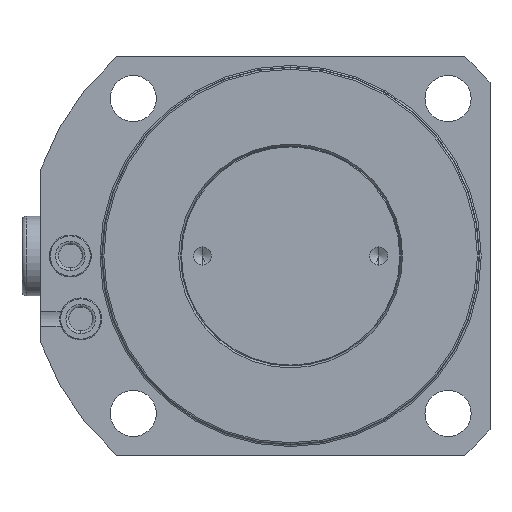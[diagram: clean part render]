
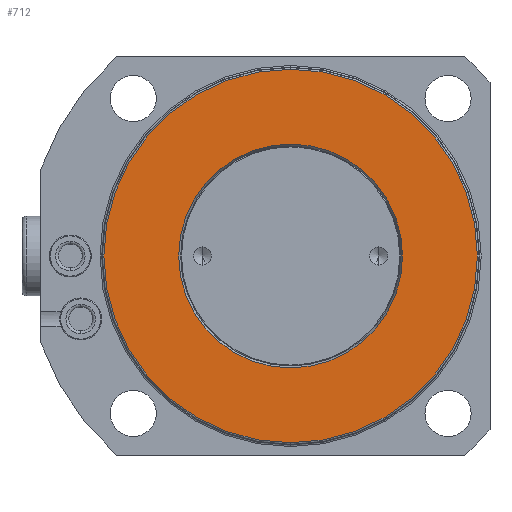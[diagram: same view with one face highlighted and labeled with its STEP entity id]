
A CAD part, front view. The second image highlights one B-rep face of the part: STEP entity #712.
In plain terms, the highlighted planar face has unit normal (0, -1, 0).
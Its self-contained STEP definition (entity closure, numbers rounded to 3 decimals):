
#322=FACE_BOUND('',#1226,.T.);
#323=FACE_BOUND('',#1227,.T.);
#379=PLANE('',#4048);
#712=ADVANCED_FACE('',(#322,#323),#379,.F.);
#1226=EDGE_LOOP('',(#2361,#2362));
#1227=EDGE_LOOP('',(#2363,#2364));
#2361=ORIENTED_EDGE('',*,*,#3245,.F.);
#2362=ORIENTED_EDGE('',*,*,#3309,.F.);
#2363=ORIENTED_EDGE('',*,*,#3250,.T.);
#2364=ORIENTED_EDGE('',*,*,#3308,.T.);
#2827=VERTEX_POINT('',#6473);
#2828=VERTEX_POINT('',#6474);
#2831=VERTEX_POINT('',#6482);
#2832=VERTEX_POINT('',#6484);
#3245=EDGE_CURVE('',#2827,#2828,#3560,.T.);
#3250=EDGE_CURVE('',#2832,#2831,#3564,.T.);
#3308=EDGE_CURVE('',#2831,#2832,#3592,.T.);
#3309=EDGE_CURVE('',#2828,#2827,#3593,.T.);
#3560=CIRCLE('',#3998,44.5);
#3564=CIRCLE('',#4003,26.662);
#3592=CIRCLE('',#4045,26.662);
#3593=CIRCLE('',#4047,44.5);
#3998=AXIS2_PLACEMENT_3D('',#6472,#5017,#5018);
#4003=AXIS2_PLACEMENT_3D('',#6483,#5028,#5029);
#4045=AXIS2_PLACEMENT_3D('',#6638,#5132,#5133);
#4047=AXIS2_PLACEMENT_3D('',#6640,#5136,#5137);
#4048=AXIS2_PLACEMENT_3D('',#6641,#5138,#5139);
#5017=DIRECTION('',(0.,1.,0.));
#5018=DIRECTION('',(0.,0.,1.));
#5028=DIRECTION('',(0.,1.,0.));
#5029=DIRECTION('',(0.,0.,1.));
#5132=DIRECTION('',(0.,1.,0.));
#5133=DIRECTION('',(0.,0.,1.));
#5136=DIRECTION('',(0.,1.,0.));
#5137=DIRECTION('',(0.,0.,1.));
#5138=DIRECTION('',(0.,1.,0.));
#5139=DIRECTION('',(0.,0.,1.));
#6472=CARTESIAN_POINT('',(0.,3.5,0.));
#6473=CARTESIAN_POINT('',(0.,3.5,44.5));
#6474=CARTESIAN_POINT('',(0.,3.5,-44.5));
#6482=CARTESIAN_POINT('',(0.,3.5,26.662));
#6483=CARTESIAN_POINT('',(0.,3.5,0.));
#6484=CARTESIAN_POINT('',(0.,3.5,-26.662));
#6638=CARTESIAN_POINT('',(0.,3.5,0.));
#6640=CARTESIAN_POINT('',(0.,3.5,0.));
#6641=CARTESIAN_POINT('',(0.,3.5,0.));
